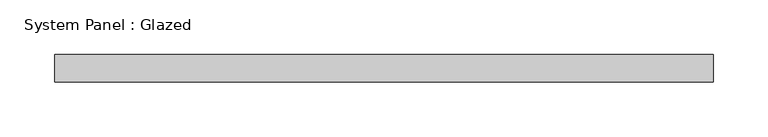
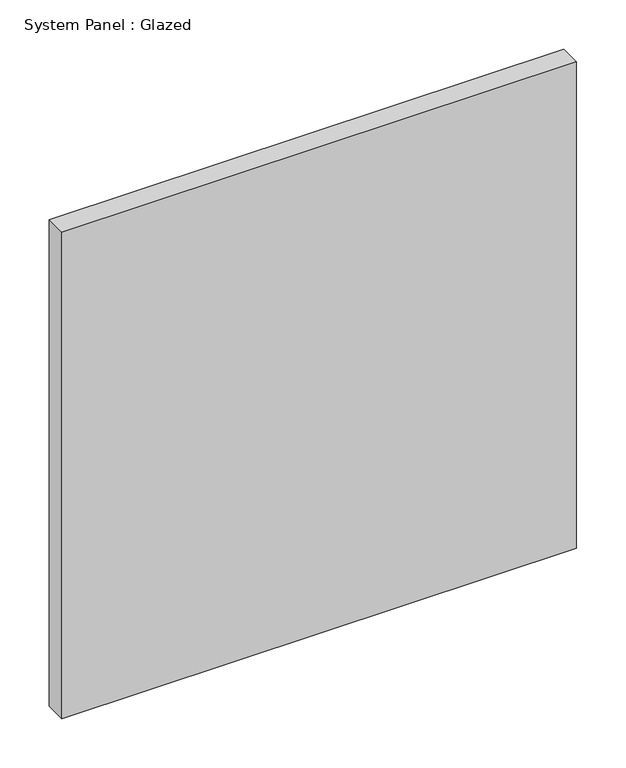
"""IFC4 building model written with IfcOpenShell, lengths in millimetres: plate geometry, System Panel : Glazed."""

from ifc_helpers import new_model, si_unit, origin, origin_with_axes, place, context, project, spatial, polyline, outline, extrude, source, transform, mapped, element, save


def system_panel_glazed_93ed122c(model_context):
    return source(origin(), model_context, "Body", "SweptSolid", [
        extrude(outline(polyline([(300.0, -49.5), (-300.0, -49.5), (-300.0, -24.5), (300.0, -24.5), (300.0, -49.5)])), origin_with_axes(), (0.0, 0.0, 1.0), 600.0),
    ])


if __name__ == "__main__":
    model = new_model("IFC4")
    model_context = context("Model", 3, world=origin())
    ifc_project = project(units=[si_unit("LENGTHUNIT", "METRE", prefix="MILLI")], contexts=[model_context])
    site = spatial("IfcSite", under=ifc_project)
    building = spatial("IfcBuilding", under=site)
    placement = place(None, origin())
    system_panel_glazed_shape = system_panel_glazed_93ed122c(model_context)
    element("IfcPlate", 1, ObjectType="System Panel : Glazed", at=placement, inside=building, context=model_context, shape_type="MappedRepresentation", body=[
        mapped(system_panel_glazed_shape, transform((0.0, 0.0, 0.0), x_axis=(1.0, 0.0, 0.0), y_axis=(0.0, 1.0, 0.0), z_axis=(0.0, 0.0, 1.0))),
    ])
    save(model, "model.ifc")
